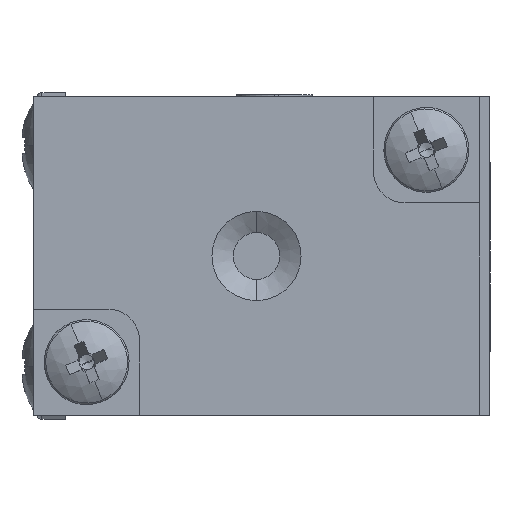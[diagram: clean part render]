
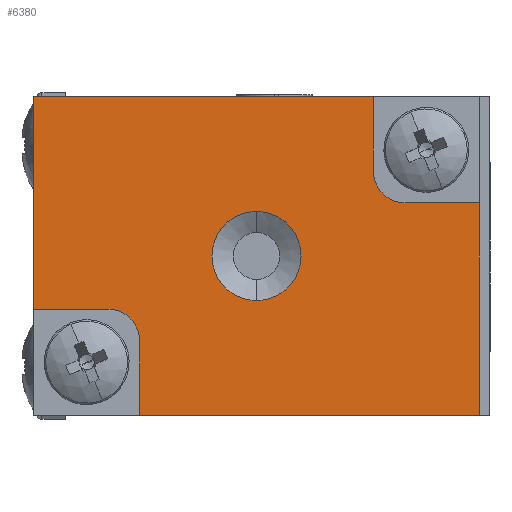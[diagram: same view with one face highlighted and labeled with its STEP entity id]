
A CAD part, left-side view. The second image highlights one B-rep face of the part: STEP entity #6380.
In plain terms, the highlighted planar face has unit normal (-1, 0, 0) as drawn and (1, 0, 0) by its records, which use the part's own axes.
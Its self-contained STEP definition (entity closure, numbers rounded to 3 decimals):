
#90 = EDGE_LOOP ( 'NONE', ( #2451, #3881 ) ) ;
#213 = VECTOR ( 'NONE', #4239, 1000. ) ;
#308 = LINE ( 'NONE', #8036, #3629 ) ;
#328 = ORIENTED_EDGE ( 'NONE', *, *, #2763, .T. ) ;
#348 = DIRECTION ( 'NONE',  ( 0., 1., 0. ) ) ;
#391 = ORIENTED_EDGE ( 'NONE', *, *, #5622, .F. ) ;
#422 = DIRECTION ( 'NONE',  ( 1., 0., 0. ) ) ;
#426 = VECTOR ( 'NONE', #3928, 1000. ) ;
#490 = CIRCLE ( 'NONE', #1484, 1.5 ) ;
#560 = CARTESIAN_POINT ( 'NONE',  ( 13., 0., -2.1 ) ) ;
#632 = EDGE_CURVE ( 'NONE', #4757, #2123, #761, .T. ) ;
#761 = LINE ( 'NONE', #1964, #4410 ) ;
#770 = VERTEX_POINT ( 'NONE', #3391 ) ;
#927 = EDGE_CURVE ( 'NONE', #4757, #2010, #1307, .T. ) ;
#1214 = DIRECTION ( 'NONE',  ( 0., 0., 1. ) ) ;
#1307 = LINE ( 'NONE', #8021, #4715 ) ;
#1474 = ORIENTED_EDGE ( 'NONE', *, *, #632, .T. ) ;
#1484 = AXIS2_PLACEMENT_3D ( 'NONE', #6377, #4481, #5696 ) ;
#1735 = DIRECTION ( 'NONE',  ( 0., 0., -1. ) ) ;
#1752 = CARTESIAN_POINT ( 'NONE',  ( 13., 5.5, 7.5 ) ) ;
#1768 = ORIENTED_EDGE ( 'NONE', *, *, #4822, .F. ) ;
#1864 = EDGE_CURVE ( 'NONE', #4990, #770, #5441, .T. ) ;
#1955 = FACE_BOUND ( 'NONE', #90, .T. ) ;
#1956 = AXIS2_PLACEMENT_3D ( 'NONE', #3910, #5776, #7017 ) ;
#1964 = CARTESIAN_POINT ( 'NONE',  ( 13., -10.5, 7.5 ) ) ;
#2000 = CARTESIAN_POINT ( 'NONE',  ( 13., -10.5, -7.5 ) ) ;
#2010 = VERTEX_POINT ( 'NONE', #2729 ) ;
#2057 = DIRECTION ( 'NONE',  ( 0., -1., 0. ) ) ;
#2123 = VERTEX_POINT ( 'NONE', #2807 ) ;
#2350 = LINE ( 'NONE', #5588, #213 ) ;
#2437 = AXIS2_PLACEMENT_3D ( 'NONE', #6416, #3901, #3230 ) ;
#2451 = ORIENTED_EDGE ( 'NONE', *, *, #5761, .F. ) ;
#2459 = CARTESIAN_POINT ( 'NONE',  ( 13., -10.5, -2.5 ) ) ;
#2497 = ORIENTED_EDGE ( 'NONE', *, *, #7718, .T. ) ;
#2573 = DIRECTION ( 'NONE',  ( -1., 0., 0. ) ) ;
#2659 = AXIS2_PLACEMENT_3D ( 'NONE', #7470, #422, #1735 ) ;
#2729 = CARTESIAN_POINT ( 'NONE',  ( 13., 5.5, 4. ) ) ;
#2763 = EDGE_CURVE ( 'NONE', #2123, #6746, #2350, .T. ) ;
#2807 = CARTESIAN_POINT ( 'NONE',  ( 13., -10.5, 7.5 ) ) ;
#2968 = VERTEX_POINT ( 'NONE', #6344 ) ;
#3226 = VERTEX_POINT ( 'NONE', #7442 ) ;
#3230 = DIRECTION ( 'NONE',  ( 0., 0., -1. ) ) ;
#3391 = CARTESIAN_POINT ( 'NONE',  ( 13., 10.5, 2.5 ) ) ;
#3523 = CARTESIAN_POINT ( 'NONE',  ( 13., 0., 2.1 ) ) ;
#3629 = VECTOR ( 'NONE', #4890, 1000. ) ;
#3881 = ORIENTED_EDGE ( 'NONE', *, *, #6983, .F. ) ;
#3901 = DIRECTION ( 'NONE',  ( 1., 0., 0. ) ) ;
#3910 = CARTESIAN_POINT ( 'NONE',  ( 13., -7., -4. ) ) ;
#3928 = DIRECTION ( 'NONE',  ( 0., 0., 1. ) ) ;
#4239 = DIRECTION ( 'NONE',  ( 0., 0., -1. ) ) ;
#4349 = ORIENTED_EDGE ( 'NONE', *, *, #5482, .T. ) ;
#4410 = VECTOR ( 'NONE', #2057, 1000. ) ;
#4481 = DIRECTION ( 'NONE',  ( -1., 0., 0. ) ) ;
#4617 = CARTESIAN_POINT ( 'NONE',  ( 13., -5.5, -7.5 ) ) ;
#4715 = VECTOR ( 'NONE', #5404, 1000. ) ;
#4757 = VERTEX_POINT ( 'NONE', #1752 ) ;
#4822 = EDGE_CURVE ( 'NONE', #2968, #6746, #6788, .T. ) ;
#4890 = DIRECTION ( 'NONE',  ( 0., 0., 1. ) ) ;
#4911 = CIRCLE ( 'NONE', #2659, 2.1 ) ;
#4990 = VERTEX_POINT ( 'NONE', #7164 ) ;
#4996 = ORIENTED_EDGE ( 'NONE', *, *, #5708, .F. ) ;
#5011 = VERTEX_POINT ( 'NONE', #3523 ) ;
#5026 = VECTOR ( 'NONE', #6857, 1000. ) ;
#5051 = CARTESIAN_POINT ( 'NONE',  ( 13., 0., 0. ) ) ;
#5113 = CIRCLE ( 'NONE', #1956, 1.5 ) ;
#5210 = VECTOR ( 'NONE', #7034, 1000. ) ;
#5313 = VECTOR ( 'NONE', #348, 1000. ) ;
#5403 = CARTESIAN_POINT ( 'NONE',  ( 13., -10.5, -2.5 ) ) ;
#5404 = DIRECTION ( 'NONE',  ( 0., 0., -1. ) ) ;
#5441 = LINE ( 'NONE', #7700, #426 ) ;
#5482 = EDGE_CURVE ( 'NONE', #2968, #7337, #5113, .T. ) ;
#5588 = CARTESIAN_POINT ( 'NONE',  ( 13., -10.5, 7.5 ) ) ;
#5622 = EDGE_CURVE ( 'NONE', #3226, #770, #7980, .T. ) ;
#5696 = DIRECTION ( 'NONE',  ( 0., 0., 1. ) ) ;
#5708 = EDGE_CURVE ( 'NONE', #7019, #7337, #308, .T. ) ;
#5761 = EDGE_CURVE ( 'NONE', #6365, #5011, #4911, .T. ) ;
#5776 = DIRECTION ( 'NONE',  ( -1., 0., 0. ) ) ;
#5899 = EDGE_CURVE ( 'NONE', #7019, #4990, #8155, .T. ) ;
#6122 = FACE_OUTER_BOUND ( 'NONE', #7924, .T. ) ;
#6344 = CARTESIAN_POINT ( 'NONE',  ( 13., -7., -2.5 ) ) ;
#6353 = PLANE ( 'NONE',  #7212 ) ;
#6365 = VERTEX_POINT ( 'NONE', #560 ) ;
#6377 = CARTESIAN_POINT ( 'NONE',  ( 13., 7., 4. ) ) ;
#6380 = ADVANCED_FACE ( 'NONE', ( #1955, #6122 ), #6353, .F. ) ;
#6416 = CARTESIAN_POINT ( 'NONE',  ( 13., 0., 0. ) ) ;
#6746 = VERTEX_POINT ( 'NONE', #5403 ) ;
#6788 = LINE ( 'NONE', #2459, #5026 ) ;
#6857 = DIRECTION ( 'NONE',  ( 0., -1., 0. ) ) ;
#6983 = EDGE_CURVE ( 'NONE', #5011, #6365, #7002, .T. ) ;
#7002 = CIRCLE ( 'NONE', #2437, 2.1 ) ;
#7007 = CARTESIAN_POINT ( 'NONE',  ( 13., -5.5, -4. ) ) ;
#7017 = DIRECTION ( 'NONE',  ( 0., 0., 1. ) ) ;
#7019 = VERTEX_POINT ( 'NONE', #4617 ) ;
#7034 = DIRECTION ( 'NONE',  ( 0., 1., 0. ) ) ;
#7164 = CARTESIAN_POINT ( 'NONE',  ( 13., 10.5, -7.5 ) ) ;
#7212 = AXIS2_PLACEMENT_3D ( 'NONE', #5051, #2573, #1214 ) ;
#7337 = VERTEX_POINT ( 'NONE', #7007 ) ;
#7340 = ORIENTED_EDGE ( 'NONE', *, *, #1864, .T. ) ;
#7442 = CARTESIAN_POINT ( 'NONE',  ( 13., 7., 2.5 ) ) ;
#7470 = CARTESIAN_POINT ( 'NONE',  ( 13., 0., 0. ) ) ;
#7661 = ORIENTED_EDGE ( 'NONE', *, *, #927, .F. ) ;
#7700 = CARTESIAN_POINT ( 'NONE',  ( 13., 10.5, 7.5 ) ) ;
#7718 = EDGE_CURVE ( 'NONE', #3226, #2010, #490, .T. ) ;
#7880 = CARTESIAN_POINT ( 'NONE',  ( 13., 10.5, 2.5 ) ) ;
#7924 = EDGE_LOOP ( 'NONE', ( #328, #1768, #4349, #4996, #8033, #7340, #391, #2497, #7661, #1474 ) ) ;
#7980 = LINE ( 'NONE', #7880, #5313 ) ;
#8021 = CARTESIAN_POINT ( 'NONE',  ( 13., 5.5, 7.5 ) ) ;
#8033 = ORIENTED_EDGE ( 'NONE', *, *, #5899, .T. ) ;
#8036 = CARTESIAN_POINT ( 'NONE',  ( 13., -5.5, -7.5 ) ) ;
#8155 = LINE ( 'NONE', #2000, #5210 ) ;
